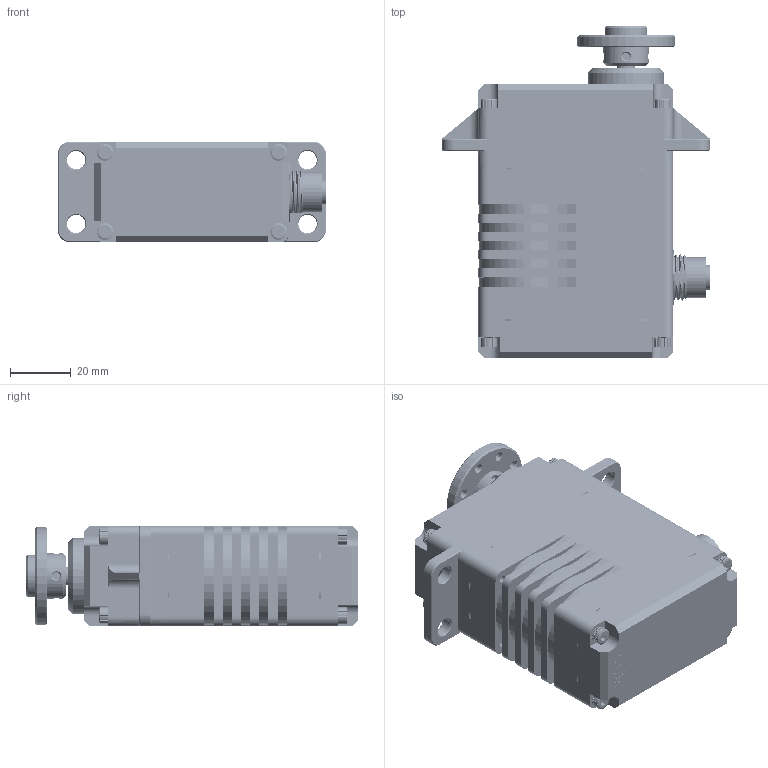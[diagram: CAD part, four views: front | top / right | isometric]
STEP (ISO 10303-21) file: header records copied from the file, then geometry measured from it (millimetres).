
FILE_DESCRIPTION((''),'2;1');
FILE_NAME('SG33BL-90CCN12V19140-MMTH_22053_ASM','2022-05-30T',('82105'),(''),'CREO PARAMETRIC BY PTC INC, 2016050','CREO PARAMETRIC BY PTC INC, 2016050','');
FILE_SCHEMA(('CONFIG_CONTROL_DESIGN'));
Products named in the file (17): S33T-E-G_AL6061_120101010127__1; 120208000043_SI_1100_T-RING_1_1; SG33BL_AL6061_HEATSINK_UBER_1_1; SG33L-SW_1_1; SG33SG4_HORN_SHAFT_1_1; S33G4_12XXXXXXXXXX_ASM_1_1_ASM__ASM; I-MOS_S45C_120217000116_1_1_1; 120201000114_SC_M3XL3_1_1_1; HSH_M3XL30_SUS_120201000141_1_1; HSH_M3X15_SUS_120201000155_1_1_; 120204000002_SW_5_9X3_1_1_1; C-T4131012041-000-A-_NUT_1_1; C-T4131012041-000-A-O-RING_1_1; SG33BL_UBER_ASM_1_ASM_1_ASM; C-T4131012041-000-A-3D_1; SG33BL-90CCN12V19140-MMTH_ASM_1_ASM; SG33BL-90CCN12V19140-MMTH_22053_ASM
Assembly tree (31 placements, depth 5):
  SG33BL-90CCN12V19140-MMTH_22053_ASM
    SG33BL-90CCN12V19140-MMTH_ASM_1_ASM
      SG33BL_UBER_ASM_1_ASM_1_ASM
        S33T-E-G_AL6061_120101010127__1
        120208000043_SI_1100_T-RING_1_1  x2
        SG33BL_AL6061_HEATSINK_UBER_1_1
        SG33L-SW_1_1
        S33G4_12XXXXXXXXXX_ASM_1_1_ASM__ASM
          SG33SG4_HORN_SHAFT_1_1
        I-MOS_S45C_120217000116_1_1_1
        120201000114_SC_M3XL3_1_1_1  x2
        HSH_M3XL30_SUS_120201000141_1_1  x4
        HSH_M3X15_SUS_120201000155_1_1_  x4
        120204000002_SW_5_9X3_1_1_1  x8
        C-T4131012041-000-A-_NUT_1_1
        C-T4131012041-000-A-O-RING_1_1
      C-T4131012041-000-A-3D_1
Bounding box: 88.1 x 109 x 33 mm (x, y, z)
Volume: 179737.4 mm3; surface area: 51295 mm2
Topology: 28 solids, 32 shells, 2984 faces, 8393 edges, 5515 vertices
Faces by surface type: cylinder 1436, plane 1022, bspline 294, cone 180, torus 50, sphere 2
Entity records: 89577 total; most frequent: CARTESIAN_POINT 37839, ORIENTED_EDGE 8350, DIRECTION 7365, EDGE_CURVE 4175, PRESENTATION_STYLE_ASSIGNMENT 3877, STYLED_ITEM 3733, CURVE_STYLE 3614, VERTEX_POINT 2757
